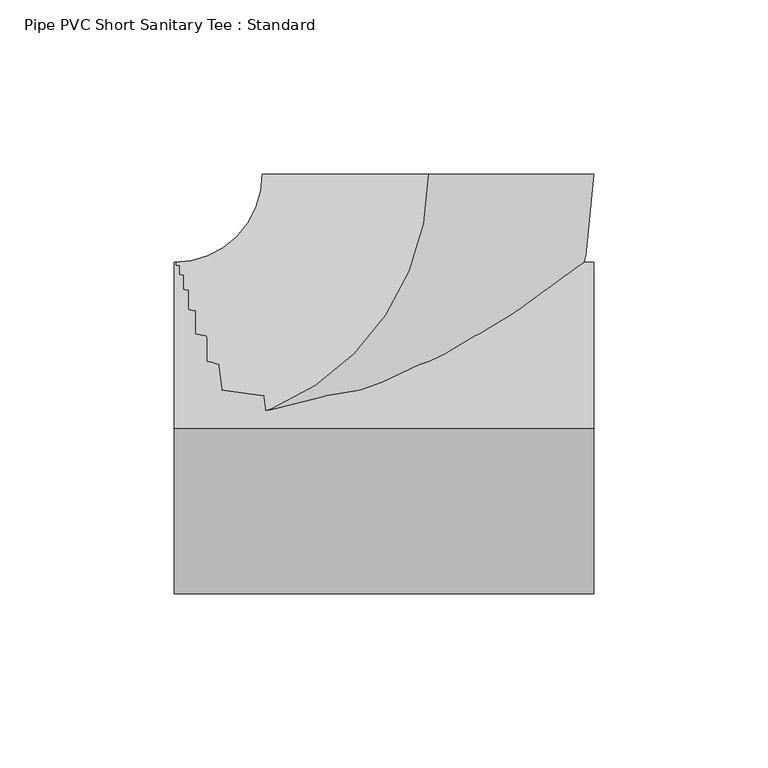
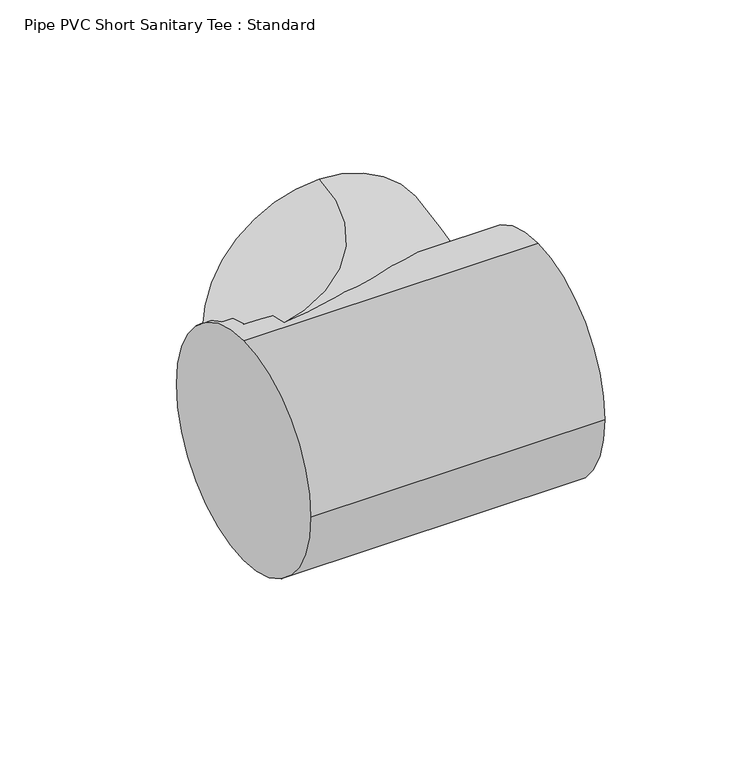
"""IFC4 building model written with IfcOpenShell, lengths in millimetres: pipe fitting geometry, Pipe PVC Short Sanitary Tee : Standard."""

from ifc_helpers import new_model, si_unit, point, frame, origin, origin_2d, place, context, project, spatial, circle_curve, ellipse_curve, trimmed, segment, composite_curve, outline, extrude, source, transform, mapped, element, save
from ifc_brep_helpers import plane_surface, revolved_surface, advanced_brep


def pipe_pvc_short_sanitary_tee_standard_0621024b(model_context):
    return source(origin(), model_context, "Body", "SolidModel", [
        extrude(outline(composite_curve([segment(trimmed(circle_curve(origin_2d(), 47.625), [point((0.0, 47.625))], [point((47.625, 0.0))], False, "CARTESIAN"), True, "CONTINUOUS"), segment(trimmed(circle_curve(origin_2d(), 47.625), [point((47.625, 0.0))], [point((0.0, -47.625))], False, "CARTESIAN"), True, "CONTINUOUS"), segment(trimmed(circle_curve(origin_2d(), 47.625), [point((0.0, -47.625))], [point((-47.625, 0.0))], False, "CARTESIAN"), True, "CONTINUOUS"), segment(trimmed(circle_curve(origin_2d(), 47.625), [point((-47.625, 0.0))], [point((0.0, 47.625))], False, "CARTESIAN"), True, "CONTINUOUS")], self_intersect=False)), frame((-73.0169847, 0.0, 0.0), z_axis=(1.0, 0.0, 0.0), x_axis=(0.0, 1.0, 0.0)), (0.0, 0.0, 1.0), 120.6499996),
        advanced_brep(
        [(-73.0169847, 0.0, 47.625), (-73.0169847, 47.625, 0.0), (-73.0169847, 0.0, -47.625), (-73.0169847, -47.625, 0.0), (0.0080148, 73.0169843, 47.625), (47.6330145, 73.0117567, 0.0), (0.0080148, 73.0169843, -47.625), (-47.6169849, 73.0222119, 0.0)],
        [
            (0, 1, circle_curve(frame((-73.0169847, 0.0, 0.0), z_axis=(-1.0, 0.0, 0.0), x_axis=(0.0, 1.0, 0.0)), 47.625)),
            (1, 2, circle_curve(frame((-73.0169847, 0.0, 0.0), z_axis=(-1.0, 0.0, 0.0), x_axis=(0.0, 1.0, 0.0)), 47.625)),
            (2, 3, circle_curve(frame((-73.0169847, 0.0, 0.0), z_axis=(-1.0, 0.0, 0.0), x_axis=(0.0, 1.0, 0.0)), 47.625)),
            (3, 0, circle_curve(frame((-73.0169847, 0.0, 0.0), z_axis=(-1.0, 0.0, 0.0), x_axis=(0.0, 1.0, 0.0)), 47.625)),
            (4, 5, circle_curve(frame((0.0080148, 73.0169843, 0.0), z_axis=(0.00010976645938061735, 0.9999999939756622, 0.0), x_axis=(-0.9999999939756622, 0.00010976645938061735, 0.0)), 47.625)),
            (5, 6, circle_curve(frame((0.0080148, 73.0169843, 0.0), z_axis=(0.00010976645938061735, 0.9999999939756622, 0.0), x_axis=(-0.9999999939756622, 0.00010976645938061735, 0.0)), 47.625)),
            (6, 7, circle_curve(frame((0.0080148, 73.0169843, 0.0), z_axis=(0.00010976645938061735, 0.9999999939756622, 0.0), x_axis=(-0.9999999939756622, 0.00010976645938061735, 0.0)), 47.625)),
            (7, 4, circle_curve(frame((0.0080148, 73.0169843, 0.0), z_axis=(0.00010976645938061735, 0.9999999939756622, 0.0), x_axis=(-0.9999999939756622, 0.00010976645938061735, 0.0)), 47.625)),
            (7, 1, circle_curve(frame((-73.0169847, 73.025, 0.0), z_axis=(0.0, 0.0, -1.0), x_axis=(0.0, -1.0, 0.0)), 25.4)),
            (0, 4, circle_curve(frame((-73.0169847, 73.025, 47.625), z_axis=(0.0, 0.0, 1.0), x_axis=(0.0, -1.0, 0.0)), 73.025)),
            (6, 2, circle_curve(frame((-73.0169847, 73.025, -47.625), z_axis=(0.0, 0.0, -1.0), x_axis=(0.0, -1.0, 0.0)), 73.025)),
            (5, 3, circle_curve(frame((-73.0169847, 73.025, 0.0), z_axis=(0.0, 0.0, -1.0), x_axis=(0.0, -1.0, 0.0)), 120.65)),
        ],
        [
            plane_surface(frame((-73.0169847, 0.0, 0.0), z_axis=(-1.0, 0.0, 0.0), x_axis=(0.0, 0.0, 1.0))),
            plane_surface(frame((0.0080148, 73.0169843, 0.0), z_axis=(0.0001097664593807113, 0.9999999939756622, 0.0), x_axis=(0.0, 0.0, 1.0))),
            revolved_surface(trimmed(ellipse_curve(frame((-73.0169847, 0.0, 0.0), z_axis=(-1.0, 0.0, 0.0), x_axis=(0.0, 1.0, 0.0)), 47.625, 47.625), [point((-73.0169847, 0.0, 47.625))], [point((-73.0169847, 47.625, 0.0))], True, "CARTESIAN"), (-73.0169847, 73.025, 0.0), (0.0, 0.0, 1.0)),
            revolved_surface(trimmed(ellipse_curve(frame((-73.0169847, 0.0, 0.0), z_axis=(-1.0, 0.0, 0.0), x_axis=(0.0, 1.0, 0.0)), 47.625, 47.625), [point((-73.0169847, 47.625, 0.0))], [point((-73.0169847, 0.0, -47.625))], True, "CARTESIAN"), (-73.0169847, 73.025, 0.0), (0.0, 0.0, 1.0)),
            revolved_surface(trimmed(ellipse_curve(frame((-73.0169847, 0.0, 0.0), z_axis=(-1.0, 0.0, 0.0), x_axis=(0.0, 1.0, 0.0)), 47.625, 47.625), [point((-73.0169847, 0.0, -47.625))], [point((-73.0169847, -47.625, 0.0))], True, "CARTESIAN"), (-73.0169847, 73.025, 0.0), (0.0, 0.0, 1.0)),
            revolved_surface(trimmed(ellipse_curve(frame((-73.0169847, 0.0, 0.0), z_axis=(-1.0, 0.0, 0.0), x_axis=(0.0, 1.0, 0.0)), 47.625, 47.625), [point((-73.0169847, -47.625, 0.0))], [point((-73.0169847, 0.0, 47.625))], True, "CARTESIAN"), (-73.0169847, 73.025, 0.0), (0.0, 0.0, 1.0)),
        ],
        [
            (0, [[1, 2, 3, 4]]),
            (1, [[5, 6, 7, 8]]),
            (2, [[9, -1, 10, -8]]),
            (3, [[11, -2, -9, -7]]),
            (4, [[12, -3, -11, -6]]),
            (5, [[-10, -4, -12, -5]]),
        ],
    ),
        advanced_brep(
        [(-73.0169847, 0.0, 47.625), (-73.0169847, 47.625, 0.0), (-73.0169847, 0.0, -47.625), (-73.0169847, -47.625, 0.0), (0.0080148, 73.0169843, 47.625), (47.6330145, 73.0117567, 0.0), (0.0080148, 73.0169843, -47.625), (-47.6169849, 73.0222119, 0.0)],
        [
            (0, 1, circle_curve(frame((-73.0169847, 0.0, 0.0), z_axis=(-1.0, 0.0, 0.0), x_axis=(0.0, 1.0, 0.0)), 47.625)),
            (1, 2, circle_curve(frame((-73.0169847, 0.0, 0.0), z_axis=(-1.0, 0.0, 0.0), x_axis=(0.0, 1.0, 0.0)), 47.625)),
            (2, 3, circle_curve(frame((-73.0169847, 0.0, 0.0), z_axis=(-1.0, 0.0, 0.0), x_axis=(0.0, 1.0, 0.0)), 47.625)),
            (3, 0, circle_curve(frame((-73.0169847, 0.0, 0.0), z_axis=(-1.0, 0.0, 0.0), x_axis=(0.0, 1.0, 0.0)), 47.625)),
            (4, 5, circle_curve(frame((0.0080148, 73.0169843, 0.0), z_axis=(0.00010976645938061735, 0.9999999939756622, 0.0), x_axis=(-0.9999999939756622, 0.00010976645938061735, 0.0)), 47.625)),
            (5, 6, circle_curve(frame((0.0080148, 73.0169843, 0.0), z_axis=(0.00010976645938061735, 0.9999999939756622, 0.0), x_axis=(-0.9999999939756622, 0.00010976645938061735, 0.0)), 47.625)),
            (6, 7, circle_curve(frame((0.0080148, 73.0169843, 0.0), z_axis=(0.00010976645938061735, 0.9999999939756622, 0.0), x_axis=(-0.9999999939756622, 0.00010976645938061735, 0.0)), 47.625)),
            (7, 4, circle_curve(frame((0.0080148, 73.0169843, 0.0), z_axis=(0.00010976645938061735, 0.9999999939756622, 0.0), x_axis=(-0.9999999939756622, 0.00010976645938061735, 0.0)), 47.625)),
            (7, 1, circle_curve(frame((-73.0169847, 73.025, 0.0), z_axis=(0.0, 0.0, -1.0), x_axis=(0.0, -1.0, 0.0)), 25.4)),
            (0, 4, circle_curve(frame((-73.0169847, 73.025, 47.625), z_axis=(0.0, 0.0, 1.0), x_axis=(0.0, -1.0, 0.0)), 73.025)),
            (6, 2, circle_curve(frame((-73.0169847, 73.025, -47.625), z_axis=(0.0, 0.0, -1.0), x_axis=(0.0, -1.0, 0.0)), 73.025)),
            (5, 3, circle_curve(frame((-73.0169847, 73.025, 0.0), z_axis=(0.0, 0.0, -1.0), x_axis=(0.0, -1.0, 0.0)), 120.65)),
        ],
        [
            plane_surface(frame((-73.0169847, 0.0, 0.0), z_axis=(-1.0, 0.0, 0.0), x_axis=(0.0, 0.0, 1.0))),
            plane_surface(frame((0.0080148, 73.0169843, 0.0), z_axis=(0.0001097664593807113, 0.9999999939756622, 0.0), x_axis=(0.0, 0.0, 1.0))),
            revolved_surface(trimmed(ellipse_curve(frame((-73.0169847, 0.0, 0.0), z_axis=(-1.0, 0.0, 0.0), x_axis=(0.0, 1.0, 0.0)), 47.625, 47.625), [point((-73.0169847, 0.0, 47.625))], [point((-73.0169847, 47.625, 0.0))], True, "CARTESIAN"), (-73.0169847, 73.025, 0.0), (0.0, 0.0, 1.0)),
            revolved_surface(trimmed(ellipse_curve(frame((-73.0169847, 0.0, 0.0), z_axis=(-1.0, 0.0, 0.0), x_axis=(0.0, 1.0, 0.0)), 47.625, 47.625), [point((-73.0169847, 47.625, 0.0))], [point((-73.0169847, 0.0, -47.625))], True, "CARTESIAN"), (-73.0169847, 73.025, 0.0), (0.0, 0.0, 1.0)),
            revolved_surface(trimmed(ellipse_curve(frame((-73.0169847, 0.0, 0.0), z_axis=(-1.0, 0.0, 0.0), x_axis=(0.0, 1.0, 0.0)), 47.625, 47.625), [point((-73.0169847, 0.0, -47.625))], [point((-73.0169847, -47.625, 0.0))], True, "CARTESIAN"), (-73.0169847, 73.025, 0.0), (0.0, 0.0, 1.0)),
            revolved_surface(trimmed(ellipse_curve(frame((-73.0169847, 0.0, 0.0), z_axis=(-1.0, 0.0, 0.0), x_axis=(0.0, 1.0, 0.0)), 47.625, 47.625), [point((-73.0169847, -47.625, 0.0))], [point((-73.0169847, 0.0, 47.625))], True, "CARTESIAN"), (-73.0169847, 73.025, 0.0), (0.0, 0.0, 1.0)),
        ],
        [
            (0, [[1, 2, 3, 4]]),
            (1, [[5, 6, 7, 8]]),
            (2, [[9, -1, 10, -8]]),
            (3, [[11, -2, -9, -7]]),
            (4, [[12, -3, -11, -6]]),
            (5, [[-10, -4, -12, -5]]),
        ],
    ),
        extrude(outline(composite_curve([segment(trimmed(circle_curve(origin_2d(), 47.625), [point((0.0, 47.625))], [point((47.625, 0.0))], False, "CARTESIAN"), True, "CONTINUOUS"), segment(trimmed(circle_curve(origin_2d(), 47.625), [point((47.625, 0.0))], [point((0.0, -47.625))], False, "CARTESIAN"), True, "CONTINUOUS"), segment(trimmed(circle_curve(origin_2d(), 47.625), [point((0.0, -47.625))], [point((-47.625, 0.0))], False, "CARTESIAN"), True, "CONTINUOUS"), segment(trimmed(circle_curve(origin_2d(), 47.625), [point((-47.625, 0.0))], [point((0.0, 47.625))], False, "CARTESIAN"), True, "CONTINUOUS")], self_intersect=False)), frame((-73.0169847, 0.0, 0.0), z_axis=(1.0, 0.0, 0.0), x_axis=(0.0, 1.0, 0.0)), (0.0, 0.0, 1.0), 120.6499996),
    ])


if __name__ == "__main__":
    model = new_model("IFC4")
    model_context = context("Model", 3, world=origin())
    ifc_project = project(units=[si_unit("LENGTHUNIT", "METRE", prefix="MILLI")], contexts=[model_context])
    site = spatial("IfcSite", under=ifc_project)
    building = spatial("IfcBuilding", under=site)
    placement = place(None, origin())
    pipe_pvc_short_sanitary_tee_standard_shape = pipe_pvc_short_sanitary_tee_standard_0621024b(model_context)
    element("IfcPipeFitting", 1, ObjectType="Pipe PVC Short Sanitary Tee : Standard", at=placement, inside=building, context=model_context, shape_type="MappedRepresentation", body=[
        mapped(pipe_pvc_short_sanitary_tee_standard_shape, transform((0.0, 0.0, 0.0), x_axis=(1.0, 0.0, 0.0), y_axis=(0.0, 1.0, 0.0), z_axis=(0.0, 0.0, 1.0))),
    ])
    save(model, "model.ifc")
